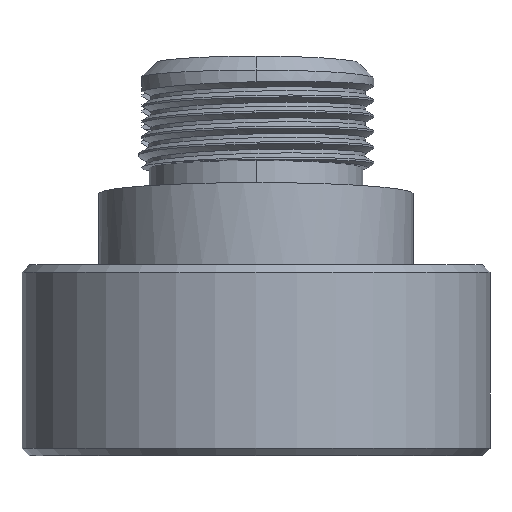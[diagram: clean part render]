
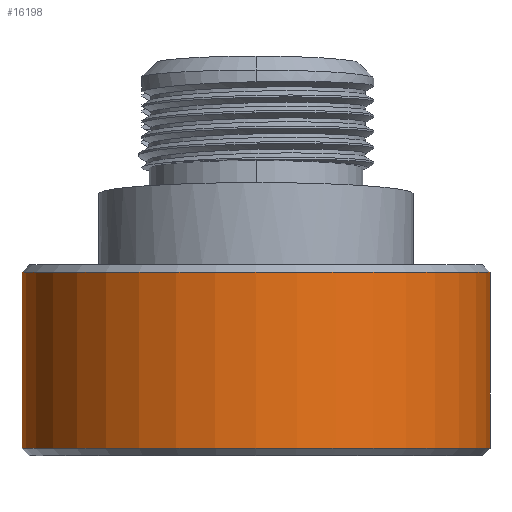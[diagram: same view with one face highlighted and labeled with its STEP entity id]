
A CAD part, front view. The second image highlights one B-rep face of the part: STEP entity #16198.
In plain terms, the highlighted cylindrical face has radius 7.938 mm (diameter 15.875 mm), a partial arc.
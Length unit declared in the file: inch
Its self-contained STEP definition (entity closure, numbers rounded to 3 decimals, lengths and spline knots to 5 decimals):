
#734 = DIRECTION ( 'NONE',  ( 1., 0., 0. ) ) ;
#1337 = CARTESIAN_POINT ( 'NONE',  ( 1.56435, -0.06966, -0.62903 ) ) ;
#1382 = ORIENTED_EDGE ( 'NONE', *, *, #11652, .T. ) ;
#3656 = ORIENTED_EDGE ( 'NONE', *, *, #8802, .F. ) ;
#4998 = AXIS2_PLACEMENT_3D ( 'NONE', #9803, #24027, #22168 ) ;
#5151 = AXIS2_PLACEMENT_3D ( 'NONE', #14517, #6151, #20814 ) ;
#5463 = VECTOR ( 'NONE', #13452, 39.37008 ) ;
#6151 = DIRECTION ( 'NONE',  ( 0., 0., 1. ) ) ;
#6421 = EDGE_LOOP ( 'NONE', ( #3656, #23782, #1382, #16750 ) ) ;
#6458 = VERTEX_POINT ( 'NONE', #13913 ) ;
#7071 = LINE ( 'NONE', #22100, #5463 ) ;
#8802 = EDGE_CURVE ( 'NONE', #18073, #12374, #16931, .T. ) ;
#9181 = VECTOR ( 'NONE', #15666, 39.37008 ) ;
#9803 = CARTESIAN_POINT ( 'NONE',  ( 1.25185, -0.06966, -0.61903 ) ) ;
#10076 = EDGE_CURVE ( 'NONE', #18073, #12467, #17172, .T. ) ;
#11273 = CARTESIAN_POINT ( 'NONE',  ( 1.56435, -0.06966, -0.61903 ) ) ;
#11652 = EDGE_CURVE ( 'NONE', #12467, #6458, #7071, .T. ) ;
#12374 = VERTEX_POINT ( 'NONE', #13315 ) ;
#12467 = VERTEX_POINT ( 'NONE', #17883 ) ;
#12914 = DIRECTION ( 'NONE',  ( 0., 0., -1. ) ) ;
#13315 = CARTESIAN_POINT ( 'NONE',  ( 1.56435, -0.06966, -0.86403 ) ) ;
#13452 = DIRECTION ( 'NONE',  ( 0., 0., -1. ) ) ;
#13913 = CARTESIAN_POINT ( 'NONE',  ( 0.93935, -0.06966, -0.86403 ) ) ;
#14517 = CARTESIAN_POINT ( 'NONE',  ( 1.25185, -0.06966, -0.86403 ) ) ;
#15666 = DIRECTION ( 'NONE',  ( 0., 0., -1. ) ) ;
#16198 = ADVANCED_FACE ( 'NONE', ( #22012 ), #24317, .T. ) ;
#16649 = CIRCLE ( 'NONE', #5151, 0.3125 ) ;
#16750 = ORIENTED_EDGE ( 'NONE', *, *, #23270, .T. ) ;
#16931 = LINE ( 'NONE', #11273, #9181 ) ;
#17172 = CIRCLE ( 'NONE', #18823, 0.3125 ) ;
#17883 = CARTESIAN_POINT ( 'NONE',  ( 0.93935, -0.06966, -0.62903 ) ) ;
#18073 = VERTEX_POINT ( 'NONE', #1337 ) ;
#18823 = AXIS2_PLACEMENT_3D ( 'NONE', #25276, #12914, #734 ) ;
#20814 = DIRECTION ( 'NONE',  ( -1., 0., 0. ) ) ;
#22012 = FACE_OUTER_BOUND ( 'NONE', #6421, .T. ) ;
#22100 = CARTESIAN_POINT ( 'NONE',  ( 0.93935, -0.06966, -0.61903 ) ) ;
#22168 = DIRECTION ( 'NONE',  ( -1., 0., 0. ) ) ;
#23270 = EDGE_CURVE ( 'NONE', #6458, #12374, #16649, .T. ) ;
#23782 = ORIENTED_EDGE ( 'NONE', *, *, #10076, .T. ) ;
#24027 = DIRECTION ( 'NONE',  ( 0., 0., -1. ) ) ;
#24317 = CYLINDRICAL_SURFACE ( 'NONE', #4998, 0.3125 ) ;
#25276 = CARTESIAN_POINT ( 'NONE',  ( 1.25185, -0.06966, -0.62903 ) ) ;
